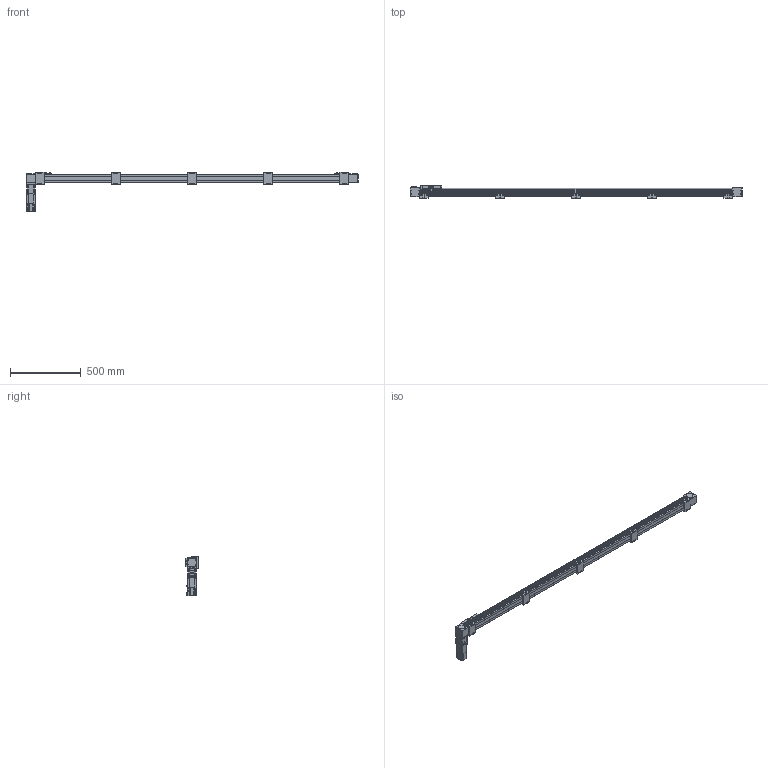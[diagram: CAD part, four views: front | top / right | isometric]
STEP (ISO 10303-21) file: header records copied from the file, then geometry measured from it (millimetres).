
FILE_DESCRIPTION(/* description */ ('STEP AP203'),/* implementation_level */ '2;1');
FILE_NAME(/* name */ 'SK60-P13-S2050-BR-T40-C1-N(0)',/* time_stamp */ '2023-04-06T04:00:37+02:00',/* author */ ('License CC BY-ND 4.0'),/* organization */ ('CADENAS'),/* preprocessor_version */ 'ST-DEVELOPER v19.3',/* originating_system */ 'PARTsolutions',/* authorisation */ ' ');
FILE_SCHEMA (('CONFIG_CONTROL_DESIGN','TECHNICAL_DATA_PACKAGING','INTEGRATED_CNC_SCHEMA','MODEL_BASED_INTEGRATED_MANUFACTURING_SCHEMA','PROCESS_PLANNING_SCHEMA','AP242_MANAGED_MODEL_BASED_3D_ENGINEERING_MIM_LF { 1 0 10303 442 3 1 4 }'));
Length unit declared in the file: millimetre
Products named in the file (11): SK60-P13-S2050-BR-T40-C1-N(0); PSC140-sensor; SK60-S450_seat; SK60-S450-BL-C1_slider; SK60_body3; SK60_body6; SK60-BL_body2; T40-p1; SK60_body5; SK60_body4; SK60-S2050-BR-C1_body
Assembly tree (20 placements, depth 2):
  SK60-P13-S2050-BR-T40-C1-N(0)
    PSC140-sensor  x3
    SK60-S450_seat  x5
    SK60-S450-BL-C1_slider
    SK60_body3  x3
    SK60_body6  x2
    SK60-BL_body2  x2
    T40-p1
    SK60_body5
    SK60_body4
    SK60-S2050-BR-C1_body
Bounding box: 2350 x 90 x 279.1 mm (x, y, z)
Volume: 8620507.3 mm3; surface area: 1078369.3 mm2
Topology: 20 solids, 24 shells, 966 faces, 2403 edges, 1586 vertices
Faces by surface type: plane 616, cylinder 314, cone 34, torus 2
Full cylindrical faces by diameter (mm): 2.8 x3, 3.3 x4, 4.2 x8, 4.5 x26, 4.6 x3, 4.917 x28, 5 x2, 5.478 x4, 5.5 x31, 6.5 x10, 8 x4, 8.5 x4, 9.988 x4, 10 x20, 13.556 x1, 14 x1, 14.586 x1, 19.692 x1, 38.432 x2, 43 x1, 44 x3, 47 x2, 50 x2
Entity records: 19395 total; most frequent: DIRECTION 3298, CARTESIAN_POINT 3292, ORIENTED_EDGE 3050, EDGE_CURVE 1525, AXIS2_PLACEMENT_3D 1103, LINE 1092, VECTOR 1092, VERTEX_POINT 1077
